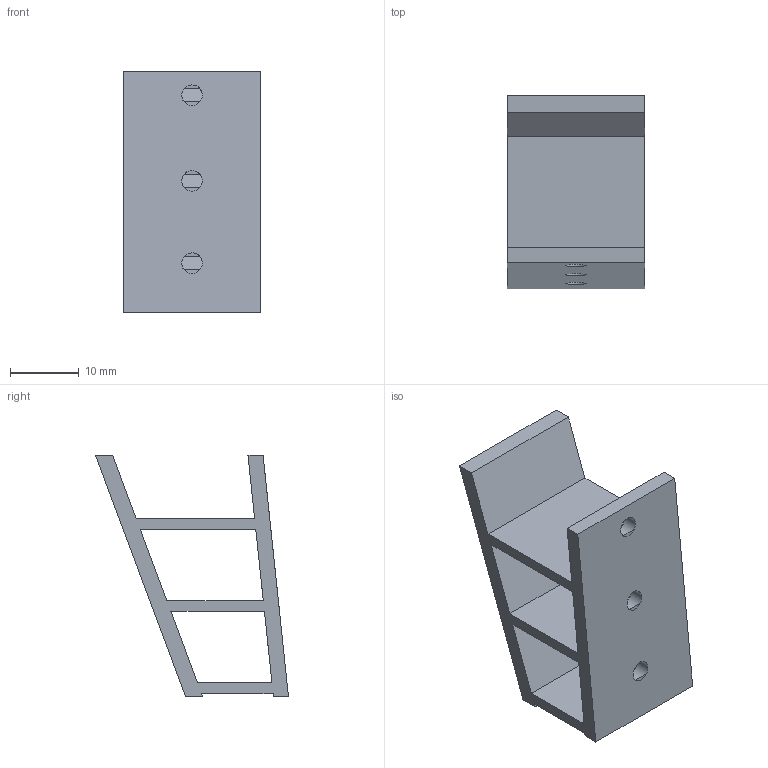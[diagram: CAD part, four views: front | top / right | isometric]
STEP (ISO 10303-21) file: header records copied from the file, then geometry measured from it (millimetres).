
FILE_DESCRIPTION(('Open CASCADE Model'),'2;1');
FILE_NAME('Open CASCADE Shape Model','2026-10-17T22:10:43',('Author'),( 'Open CASCADE'),'Open CASCADE STEP processor 7.9','Open CASCADE 7.9' ,'Unknown');
FILE_SCHEMA(('AUTOMOTIVE_DESIGN { 1 0 10303 214 1 1 1 1 }'));
Length unit declared in the file: millimetre
Products named in the file (1): Open CASCADE STEP translator 7.9 38
Bounding box: 20 x 28.15 x 35.25 mm (x, y, z)
Volume: 4597.3 mm3; surface area: 5068.4 mm2
Topology: 1 solids, 1 shells, 31 faces, 87 edges, 58 vertices
Faces by surface type: plane 28, cylinder 3
Full cylindrical faces by diameter (mm): 3 x3
Entity records: 2298 total; most frequent: CARTESIAN_POINT 567, DIRECTION 313, LINE 213, VECTOR 213, ORIENTED_EDGE 174, PCURVE 174, DEFINITIONAL_REPRESENTATION 174, EDGE_CURVE 87
